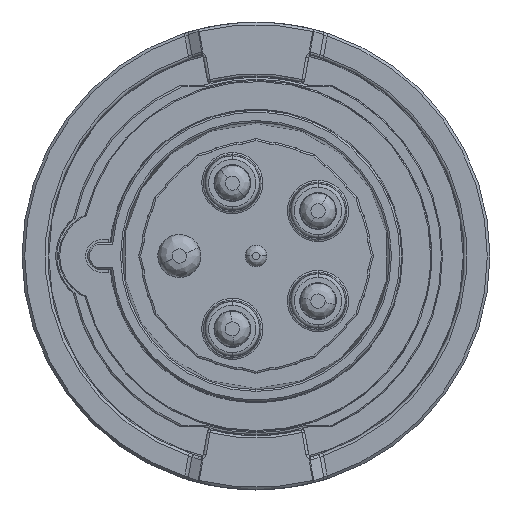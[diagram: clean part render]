
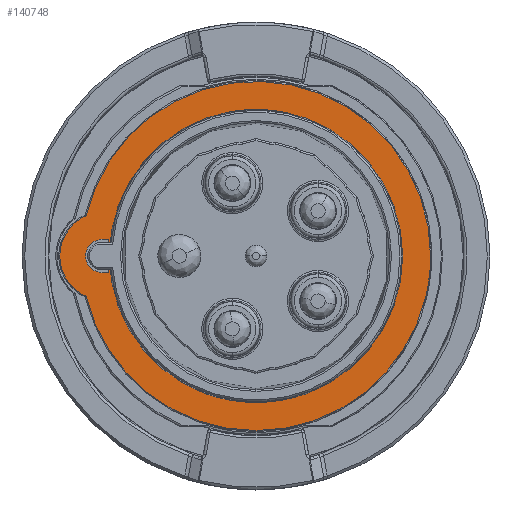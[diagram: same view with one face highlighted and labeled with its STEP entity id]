
A CAD part, left-side view. The second image highlights one B-rep face of the part: STEP entity #140748.
In plain terms, the highlighted planar face has unit normal (-1, 0, 0).
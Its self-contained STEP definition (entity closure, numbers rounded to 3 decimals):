
#40013=CARTESIAN_POINT('',(-24.8,47.092,11.176));
#40044=CARTESIAN_POINT('',(-24.8,42.2,0.));
#40045=DIRECTION('',(1.,0.,0.));
#40046=DIRECTION('',(0.,0.401,-0.916));
#40047=AXIS2_PLACEMENT_3D('',#40044,#40045,#40046);
#40049=CARTESIAN_POINT('',(-24.8,42.2,0.));
#40050=DIRECTION('',(1.,0.,0.));
#40051=DIRECTION('',(0.,1.,-0.001));
#40052=AXIS2_PLACEMENT_3D('',#40049,#40050,#40051);
#40054=CARTESIAN_POINT('',(-24.8,0.,0.));
#40055=DIRECTION('',(1.,0.,0.));
#40056=DIRECTION('',(0.,0.973,0.231));
#40057=AXIS2_PLACEMENT_3D('',#40054,#40055,#40056);
#40059=CARTESIAN_POINT('',(-24.8,0.,0.));
#40060=DIRECTION('',(1.,0.,0.));
#40061=DIRECTION('',(0.,-1.,-0.001));
#40062=AXIS2_PLACEMENT_3D('',#40059,#40060,#40061);
#40064=CARTESIAN_POINT('',(-24.8,0.,0.));
#40065=DIRECTION('',(1.,0.,0.));
#40066=DIRECTION('',(0.,-0.973,-0.231));
#40067=AXIS2_PLACEMENT_3D('',#40064,#40065,#40066);
#40069=CARTESIAN_POINT('',(-24.8,0.,0.));
#40070=DIRECTION('',(-1.,0.,0.));
#40071=DIRECTION('',(0.,-1.,0.));
#40072=AXIS2_PLACEMENT_3D('',#40069,#40070,#40071);
#40074=CARTESIAN_POINT('',(-24.8,0.,0.));
#40075=DIRECTION('',(-1.,0.,0.));
#40076=DIRECTION('',(0.,1.,0.));
#40077=AXIS2_PLACEMENT_3D('',#40074,#40075,#40076);
#40079=CARTESIAN_POINT('',(-24.8,0.,0.));
#40080=DIRECTION('',(1.,0.,0.));
#40081=DIRECTION('',(0.,0.994,-0.112));
#40082=AXIS2_PLACEMENT_3D('',#40079,#40080,#40081);
#40084=CARTESIAN_POINT('',(-24.8,42.65,0.));
#40085=DIRECTION('',(-1.,0.,0.));
#40086=DIRECTION('',(0.,0.,1.));
#40087=AXIS2_PLACEMENT_3D('',#40084,#40085,#40086);
#56191=DIRECTION('',(0.,-1.,0.));
#56192=VECTOR('',#56191,1.859);
#56193=CARTESIAN_POINT('',(-24.8,42.65,4.6));
#56194=LINE('36729',#56193,#56192);
#56213=DIRECTION('',(0.,1.,0.));
#56214=VECTOR('',#56213,1.859);
#56215=CARTESIAN_POINT('',(-24.8,40.791,-4.6));
#56216=LINE('36731',#56215,#56214);
#61953=VERTEX_POINT('',#40013);
#61954=CARTESIAN_POINT('',(-24.8,54.4,-0.018));
#61955=VERTEX_POINT('',#61954);
#61956=CARTESIAN_POINT('',(-24.8,47.092,-11.176));
#61957=VERTEX_POINT('',#61956);
#61958=CARTESIAN_POINT('',(-24.8,-48.4,-0.053));
#61959=VERTEX_POINT('',#61958);
#61960=CARTESIAN_POINT('',(-24.8,-47.092,-11.176));
#61961=VERTEX_POINT('',#61960);
#61962=CARTESIAN_POINT('',(-24.8,-40.65,0.));
#61963=CARTESIAN_POINT('',(-24.8,40.65,0.));
#61964=VERTEX_POINT('',#61962);
#61965=VERTEX_POINT('',#61963);
#61966=CARTESIAN_POINT('',(-24.8,40.791,-4.6));
#61967=CARTESIAN_POINT('',(-24.8,40.791,4.6));
#61968=VERTEX_POINT('',#61966);
#61969=VERTEX_POINT('',#61967);
#61970=CARTESIAN_POINT('',(-24.8,42.65,4.6));
#61971=VERTEX_POINT('',#61970);
#61972=CARTESIAN_POINT('',(-24.8,42.65,-4.6));
#61973=VERTEX_POINT('',#61972);
#140720=CARTESIAN_POINT('',(-24.8,0.,0.));
#140721=DIRECTION('',(1.,0.,0.));
#140722=DIRECTION('',(0.,0.,-1.));
#140723=AXIS2_PLACEMENT_3D('',#140720,#140721,#140722);
#140724=PLANE('42065',#140723);
#140725=ORIENTED_EDGE('36721',*,*,#140679,.T.);
#140726=ORIENTED_EDGE('36720',*,*,#140677,.T.);
#140727=ORIENTED_EDGE('36723',*,*,#140702,.T.);
#140728=ORIENTED_EDGE('36724',*,*,#140700,.T.);
#140729=ORIENTED_EDGE('36725',*,*,#140698,.T.);
#140730=EDGE_LOOP('42065',(#140725,#140726,#140727,#140728,#140729));
#140731=FACE_OUTER_BOUND('42065',#140730,.F.);
#140733=ORIENTED_EDGE('36726',*,*,#140732,.T.);
#140735=ORIENTED_EDGE('36727',*,*,#140734,.T.);
#140736=EDGE_LOOP('42065',(#140733,#140735));
#140737=FACE_BOUND('42065',#140736,.F.);
#140739=ORIENTED_EDGE('36728',*,*,#140738,.T.);
#140741=ORIENTED_EDGE('36729',*,*,#140740,.F.);
#140743=ORIENTED_EDGE('36730',*,*,#140742,.T.);
#140745=ORIENTED_EDGE('36731',*,*,#140744,.F.);
#140746=EDGE_LOOP('42065',(#140739,#140741,#140743,#140745));
#140747=FACE_BOUND('42065',#140746,.F.);
#40048=CIRCLE('36721',#40047,12.2);
#40053=CIRCLE('36720',#40052,12.2);
#40058=CIRCLE('36723',#40057,48.4);
#40063=CIRCLE('36724',#40062,48.4);
#40068=CIRCLE('36725',#40067,48.4);
#40073=CIRCLE('36726',#40072,40.65);
#40078=CIRCLE('36727',#40077,40.65);
#40083=CIRCLE('36728',#40082,41.05);
#40088=CIRCLE('36730',#40087,4.6);
#140677=EDGE_CURVE('36720',#61955,#61953,#40053,.T.);
#140679=EDGE_CURVE('36721',#61957,#61955,#40048,.T.);
#140698=EDGE_CURVE('36725',#61961,#61957,#40068,.T.);
#140700=EDGE_CURVE('36724',#61959,#61961,#40063,.T.);
#140702=EDGE_CURVE('36723',#61953,#61959,#40058,.T.);
#140732=EDGE_CURVE('36726',#61964,#61965,#40073,.T.);
#140734=EDGE_CURVE('36727',#61965,#61964,#40078,.T.);
#140738=EDGE_CURVE('36728',#61968,#61969,#40083,.T.);
#140740=EDGE_CURVE('36729',#61971,#61969,#56194,.T.);
#140742=EDGE_CURVE('36730',#61971,#61973,#40088,.T.);
#140744=EDGE_CURVE('36731',#61968,#61973,#56216,.T.);
#140748=ADVANCED_FACE('42065',(#140731,#140737,#140747),#140724,.F.);
